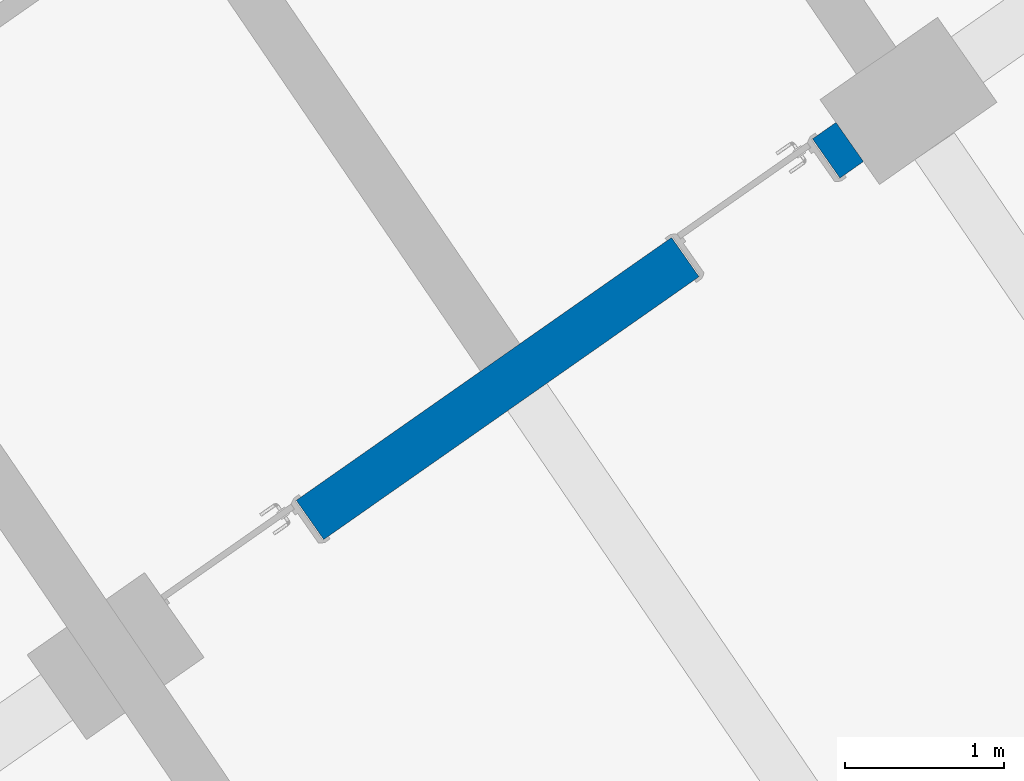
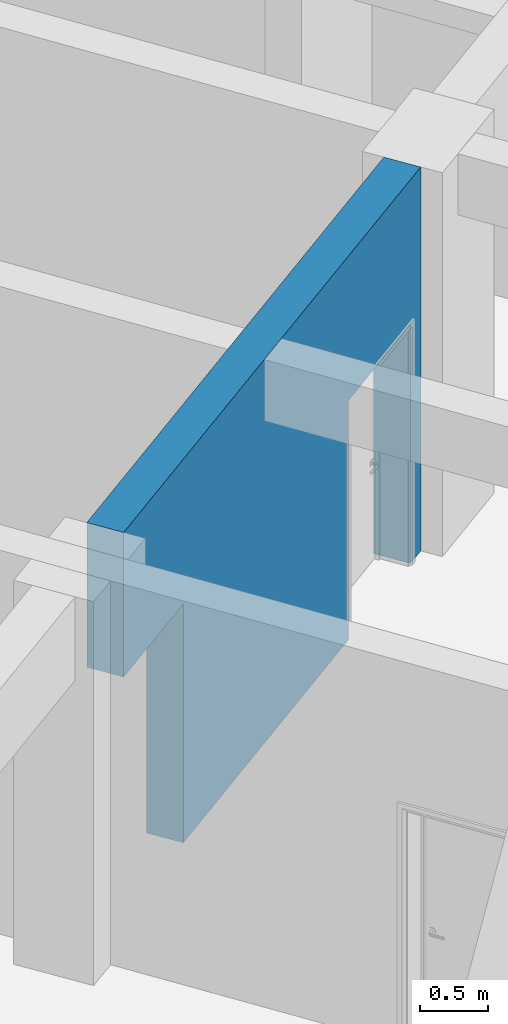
# One storey, part 67 of 112: 1 wall, 2 openings.
"""IFC2X3 building model written with IfcOpenShell, lengths in millimetres."""

from ifc_helpers import new_model, entity, si_unit, converted_unit, derived_unit, direction, frame, frame_2d, origin, place, context, subcontext, project, spatial, rectangle, extrude, material, layer, layer_set, layer_usage, type_object, element, save


model = new_model("IFC2X3")

# Units and contexts
model_context = context("Model", 3, precision=0.01, world=origin(), true_north=direction((6.123031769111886e-17, 1.0)))
body_context = subcontext(model_context, "Body", "Model", "MODEL_VIEW")
ifc_project = project(units=[si_unit("LENGTHUNIT", "METRE", prefix="MILLI"), si_unit("AREAUNIT", "SQUARE_METRE"), si_unit("VOLUMEUNIT", "CUBIC_METRE"), converted_unit("PLANEANGLEUNIT", "DEGREE", entity("IfcRatioMeasure", 0.017453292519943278), si_unit("PLANEANGLEUNIT", "RADIAN"), dimensions=[0, 0, 0, 0, 0, 0, 0]), si_unit("MASSUNIT", "GRAM", prefix="KILO"), derived_unit("MASSDENSITYUNIT", [(si_unit("MASSUNIT", "GRAM", prefix="KILO"), 1), (si_unit("LENGTHUNIT", "METRE"), -3)]), derived_unit("MOMENTOFINERTIAUNIT", [(si_unit("LENGTHUNIT", "METRE"), 4)]), si_unit("TIMEUNIT", "SECOND"), si_unit("FREQUENCYUNIT", "HERTZ"), si_unit("THERMODYNAMICTEMPERATUREUNIT", "DEGREE_CELSIUS"), derived_unit("THERMALTRANSMITTANCEUNIT", [(si_unit("MASSUNIT", "GRAM", prefix="KILO"), 1), (si_unit("THERMODYNAMICTEMPERATUREUNIT", "KELVIN"), -1), (si_unit("TIMEUNIT", "SECOND"), -3)]), derived_unit("THERMALCONDUCTANCEUNIT", [(si_unit("MASSUNIT", "GRAM", prefix="KILO"), 1), (si_unit("LENGTHUNIT", "METRE"), 1), (si_unit("THERMODYNAMICTEMPERATUREUNIT", "KELVIN"), -1), (si_unit("TIMEUNIT", "SECOND"), -3)]), derived_unit("VOLUMETRICFLOWRATEUNIT", [(si_unit("LENGTHUNIT", "METRE"), 3), (si_unit("TIMEUNIT", "SECOND"), -1)]), derived_unit("MASSFLOWRATEUNIT", [(si_unit("MASSUNIT", "GRAM", prefix="KILO"), 1), (si_unit("TIMEUNIT", "SECOND"), -1)]), derived_unit("ROTATIONALFREQUENCYUNIT", [(si_unit("TIMEUNIT", "SECOND"), -1)]), si_unit("ELECTRICCURRENTUNIT", "AMPERE"), si_unit("ELECTRICVOLTAGEUNIT", "VOLT"), si_unit("POWERUNIT", "WATT"), converted_unit("FORCEUNIT", "KIP", entity("IfcRatioMeasure", 2.088543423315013e-05), si_unit("FORCEUNIT", "NEWTON"), dimensions=[1, 1, -2, 0, 0, 0, 0]), si_unit("ILLUMINANCEUNIT", "LUX"), si_unit("LUMINOUSFLUXUNIT", "LUMEN"), si_unit("LUMINOUSINTENSITYUNIT", "CANDELA"), derived_unit("USERDEFINED", [(si_unit("MASSUNIT", "GRAM", prefix="KILO"), -1), (si_unit("LENGTHUNIT", "METRE"), -2), (si_unit("TIMEUNIT", "SECOND"), 3), (si_unit("LUMINOUSFLUXUNIT", "LUMEN"), 1)]), derived_unit("USERDEFINED", [(si_unit("MASSUNIT", "GRAM", prefix="KILO"), 1), (si_unit("LENGTHUNIT", "METRE"), 3), (si_unit("TIMEUNIT", "SECOND"), -3), (si_unit("ELECTRICCURRENTUNIT", "AMPERE"), -2)]), derived_unit("USERDEFINED", [(si_unit("LENGTHUNIT", "METRE"), 2), (si_unit("TIMEUNIT", "SECOND"), -2)]), derived_unit("SOUNDPOWERUNIT", [(si_unit("MASSUNIT", "GRAM", prefix="KILO"), 1), (si_unit("LENGTHUNIT", "METRE"), 2), (si_unit("TIMEUNIT", "SECOND"), -3)]), derived_unit("SOUNDPRESSUREUNIT", [(si_unit("MASSUNIT", "GRAM", prefix="KILO"), 1), (si_unit("LENGTHUNIT", "METRE"), -1), (si_unit("TIMEUNIT", "SECOND"), -2)]), derived_unit("LINEARVELOCITYUNIT", [(si_unit("LENGTHUNIT", "METRE"), 1), (si_unit("TIMEUNIT", "SECOND"), -1)]), si_unit("PRESSUREUNIT", "PASCAL"), derived_unit("USERDEFINED", [(si_unit("LENGTHUNIT", "METRE"), -2), (si_unit("MASSUNIT", "GRAM", prefix="KILO"), 1), (si_unit("TIMEUNIT", "SECOND"), -2)]), derived_unit("LINEARFORCEUNIT", [(si_unit("MASSUNIT", "GRAM", prefix="KILO"), 1), (si_unit("LENGTHUNIT", "METRE"), 1), (si_unit("TIMEUNIT", "SECOND"), -2), (si_unit("LENGTHUNIT", "METRE"), -1)]), derived_unit("PLANARFORCEUNIT", [(si_unit("MASSUNIT", "GRAM", prefix="KILO"), 1), (si_unit("LENGTHUNIT", "METRE"), 1), (si_unit("TIMEUNIT", "SECOND"), -2), (si_unit("LENGTHUNIT", "METRE"), -2)]), derived_unit("SPECIFICHEATCAPACITYUNIT", [(si_unit("LENGTHUNIT", "METRE"), 2), (si_unit("TIMEUNIT", "SECOND"), -2), (si_unit("THERMODYNAMICTEMPERATUREUNIT", "KELVIN"), -1)]), derived_unit("VAPORPERMEABILITYUNIT", [(si_unit("TIMEUNIT", "SECOND"), 1), (si_unit("LENGTHUNIT", "METRE"), -1)]), derived_unit("DYNAMICVISCOSITYUNIT", [(si_unit("MASSUNIT", "GRAM", prefix="KILO"), 1), (si_unit("LENGTHUNIT", "METRE"), -1), (si_unit("TIMEUNIT", "SECOND"), -1)]), derived_unit("THERMALEXPANSIONCOEFFICIENTUNIT", [(si_unit("THERMODYNAMICTEMPERATUREUNIT", "KELVIN"), -1)])], contexts=[model_context])

# Site, building, storey
site_placement = place(None, frame((0.0, 0.0, 0.0), z_axis=(0.0, 0.0, 1.0), x_axis=(0.8191520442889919, 0.5735764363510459, 0.0)))
site = spatial("IfcSite", under=ifc_project, at=site_placement, Name="Default", CompositionType="ELEMENT")
building_placement = place(site_placement, origin())
building = spatial("IfcBuilding", under=site, at=building_placement, CompositionType="ELEMENT")
storey_placement = place(building_placement, frame((0.0, 0.0, -3600.0)))
storey = spatial("IfcBuildingStorey", under=building, at=storey_placement, Name="0.UG -3.60", CompositionType="ELEMENT", Elevation=-3600.0000000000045)

# Wall, openings
ifc_material = material(Name="Analytical Wall Surface_CJC")
ifc_layer = layer(ifc_material, 300.0)
ifc_layer_set = layer_set([ifc_layer], Name="Basic Wall:Wand_Innen_30")
ifc_layer_usage = layer_usage(ifc_layer_set, "AXIS2", "POSITIVE", -150.0)
wall_type = type_object("IfcWallType", Name="Basic Wall:Wand_Innen_30", PredefinedType="STANDARD", material=ifc_layer_set)
wall_placement = place(storey_placement, frame((-210757.41890309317, 163996.3589143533, 0.0), z_axis=(0.0, 0.0, 1.0), x_axis=(-1.0, 0.0, 0.0)))
wall = element("IfcWallStandardCase", 1, at=wall_placement, inside=storey, type_object=wall_type, material=ifc_layer_usage, Name="Basic Wall:Wand_Innen_30", ObjectType="Basic Wall:Wand_Innen_30", context=body_context, shape_type="SweptSolid", body=[
    extrude(rectangle(XDim=5175.486186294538, YDim=300.0000000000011, at=frame_2d((2587.743093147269, 2.8848035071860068e-12), x_axis=(1.0, 0.0))), origin(), (0.0, 0.0, 1.0), 3450.000000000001),
])
opening_1_placement = place(wall_placement, frame((5215.486186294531, 150.0, 0.0)))
element("IfcOpeningElement", 2, at=opening_1_placement, cuts=wall, Name="Doors_IntSgl:100x210:1", ObjectType="Opening", context=body_context, shape_type="SweptSolid", body=[
    extrude(rectangle(XDim=2150.000000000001, YDim=1079.9999999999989, at=frame_2d((1075.0000000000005, 539.9999999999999), x_axis=(1.0, 0.0))), frame((0.0, 0.0, 0.0), z_axis=(0.0, -1.0, 0.0), x_axis=(0.0, 0.0, 1.0)), (0.0, 0.0, 1.0), 300.0),
])
opening_2_placement = place(wall_placement, frame((1260.0, 150.0, 0.0)))
element("IfcOpeningElement", 3, at=opening_2_placement, cuts=wall, Name="Doors_IntSgl:100x210:1", ObjectType="Opening", context=body_context, shape_type="SweptSolid", body=[
    extrude(rectangle(XDim=2150.000000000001, YDim=1079.9999999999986, at=frame_2d((1075.0000000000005, 539.9999999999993), x_axis=(1.0, 0.0))), frame((0.0, 0.0, 0.0), z_axis=(0.0, -1.0, 0.0), x_axis=(0.0, 0.0, 1.0)), (0.0, 0.0, 1.0), 300.0),
])

save(model, "model.ifc")
